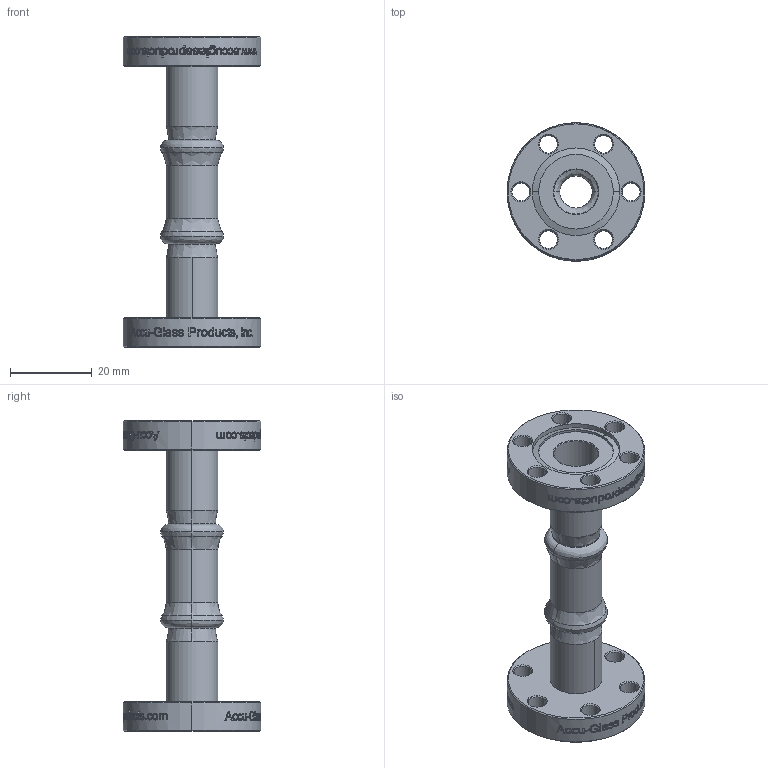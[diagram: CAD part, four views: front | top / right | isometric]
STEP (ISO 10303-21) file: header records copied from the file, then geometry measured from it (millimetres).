
FILE_DESCRIPTION (( 'STEP AP203' ), '1' );
FILE_NAME ('211050.stp', '2018-05-15T23:04:20', ( '' ), ( '' ), 'SwSTEP 2.0', 'SolidWorks 2012', '' );
FILE_SCHEMA (( 'CONFIG_CONTROL_DESIGN' ));
Products named in the file (1): 211050
Bounding box: 33.78 x 33.78 x 76.2 mm (x, y, z)
Volume: 12297.2 mm3; surface area: 10981.7 mm2
Topology: 1 solids, 1 shells, 1750 faces, 4783 edges, 3156 vertices
Faces by surface type: bspline 1052, plane 462, cylinder 172, cone 64
Entity records: 128655 total; most frequent: CARTESIAN_POINT 90766, ORIENTED_EDGE 9558, DIRECTION 4836, EDGE_CURVE 4779, VERTEX_POINT 3156, B_SPLINE_CURVE_WITH_KNOTS 2056, VECTOR 2008, LINE 2008
